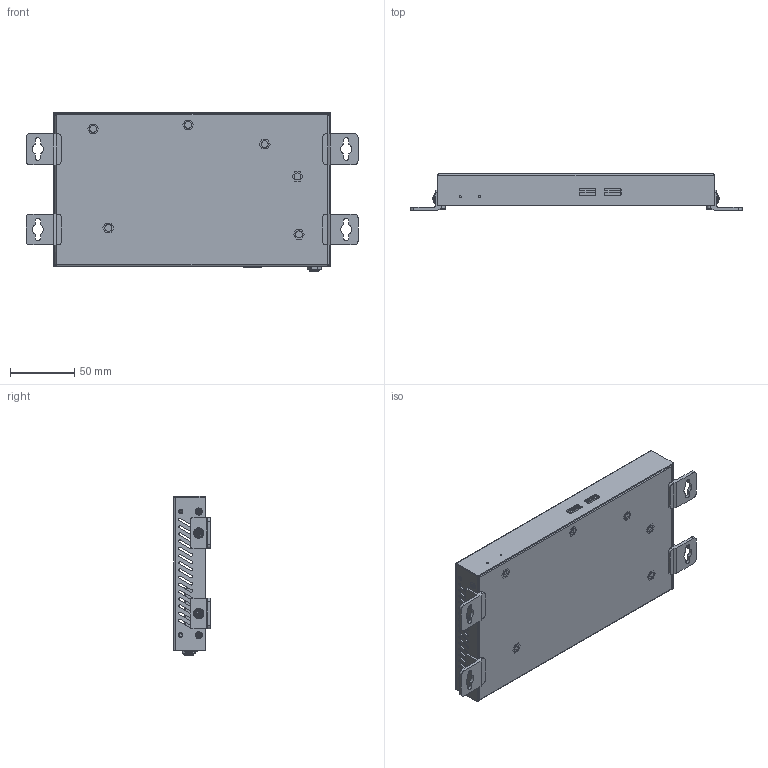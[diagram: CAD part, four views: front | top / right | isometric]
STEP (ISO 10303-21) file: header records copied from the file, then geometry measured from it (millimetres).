
FILE_DESCRIPTION((''),'2;1');
FILE_NAME('IPD5100-000_ASM','2023-05-09T',('Caoheng'),(''),'PRO/ENGINEER BY PARAMETRIC TECHNOLOGY CORPORATION, 2010280','PRO/ENGINEER BY PARAMETRIC TECHNOLOGY CORPORATION, 2010280','');
FILE_SCHEMA(('AUTOMOTIVE_DESIGN_CC2 { 1 2 10303 214 -1 1 5 2 }'));
Products named in the file (30): IPD5100-000-COVER; IPD5100-000-COVER_ASM; IPE5100-000-PCB; IR_H0400PJ301100; PHOENIX3-3_5_H140310FHD000; OP-H09031700D100; VIDEO_H1505CKX35000; HDMI_H000019PFS001; OP_H0900R8281100; RJ45_H060097428800; KFC_J0200ELTSA63R; DC_H0100DC001200; DC_GASKET; DC_NUT; DC_SCREW_ASM; LED_TIEPIAN; XIAO-PCB; LIANJIEQI-MUTOU; USB_H1206000HD000; IPE5100-A00-PCBA_ASM; IPD5100-000-BASE; BOSS-M3X5; BOSS-M3X24; IPD5100-000-BASE_ASM; M140000M3L701-M3XL6; M3_L5_BLACK; IPD5000-OTHER_ASM; M0400PA015000; M1400M3L50000_M3_L5_BLACK; IPD5100-000_ASM
Assembly tree (54 placements, depth 4):
  IPD5100-000_ASM
    IPD5100-000-COVER_ASM
      IPD5100-000-COVER
    IPE5100-A00-PCBA_ASM
      IPE5100-000-PCB
      IR_H0400PJ301100  x2
      PHOENIX3-3_5_H140310FHD000
      OP-H09031700D100
      VIDEO_H1505CKX35000  x2
      HDMI_H000019PFS001
      OP_H0900R8281100
      RJ45_H060097428800
      KFC_J0200ELTSA63R  x2
      DC_SCREW_ASM
        DC_H0100DC001200
        DC_GASKET
        DC_NUT
      LED_TIEPIAN  x2
      XIAO-PCB
      LIANJIEQI-MUTOU  x2
      USB_H1206000HD000  x3
    IPD5100-000-BASE_ASM
      IPD5100-000-BASE
      BOSS-M3X5  x5
      BOSS-M3X24
    IPD5000-OTHER_ASM
      M140000M3L701-M3XL6  x5
      M3_L5_BLACK  x5
    M0400PA015000  x4
    M1400M3L50000_M3_L5_BLACK  x4
Bounding box: 258 x 28.5 x 124.2 mm (x, y, z)
Volume: 130373 mm3; surface area: 221766.9 mm2
Topology: 51 solids, 51 shells, 4297 faces, 11651 edges, 7570 vertices
Faces by surface type: plane 2727, cylinder 1122, bspline 219, cone 115, torus 88, extrusion 12, sphere 10, revolution 4
Entity records: 115464 total; most frequent: CARTESIAN_POINT 25673, ORIENTED_EDGE 16680, DIRECTION 15887, EDGE_CURVE 8340, VECTOR 6397, LINE 6385, VERTEX_POINT 5414, AXIS2_PLACEMENT_3D 4743
